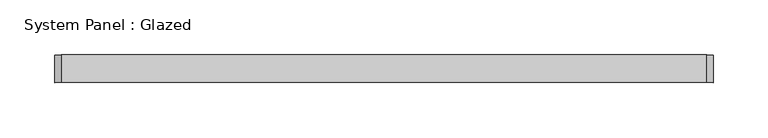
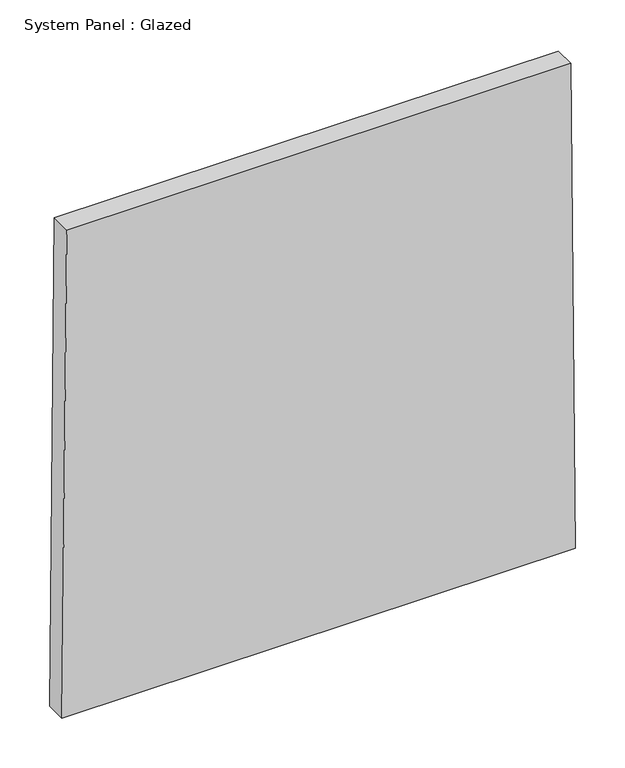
"""IFC4 building model written with IfcOpenShell, lengths in millimetres: plate geometry, System Panel : Glazed."""

from ifc_helpers import new_model, si_unit, frame, origin, place, context, project, spatial, polyline, outline, extrude, source, transform, mapped, element, save


def system_panel_glazed_30935f6d(model_context):
    return source(origin(), model_context, "Body", "SweptSolid", [
        extrude(outline(polyline([(0.0, -299.3301554), (0.0, 299.3301554), (599.9747094, 293.8212465), (599.9747094, -293.8212465), (0.0, -299.3301554)])), frame((0.0, 24.5, 0.0), z_axis=(0.0, 1.0, 0.0), x_axis=(0.0, 0.0, 1.0)), (0.0, 0.0, 1.0), 25.0),
    ])


if __name__ == "__main__":
    model = new_model("IFC4")
    model_context = context("Model", 3, world=origin())
    ifc_project = project(units=[si_unit("LENGTHUNIT", "METRE", prefix="MILLI")], contexts=[model_context])
    site = spatial("IfcSite", under=ifc_project)
    building = spatial("IfcBuilding", under=site)
    placement = place(None, origin())
    system_panel_glazed_shape = system_panel_glazed_30935f6d(model_context)
    element("IfcPlate", 1, ObjectType="System Panel : Glazed", at=placement, inside=building, context=model_context, shape_type="MappedRepresentation", body=[
        mapped(system_panel_glazed_shape, transform((0.0, 0.0, 0.0), x_axis=(1.0, 0.0, 0.0), y_axis=(0.0, 1.0, 0.0), z_axis=(0.0, 0.0, 1.0))),
    ])
    save(model, "model.ifc")
